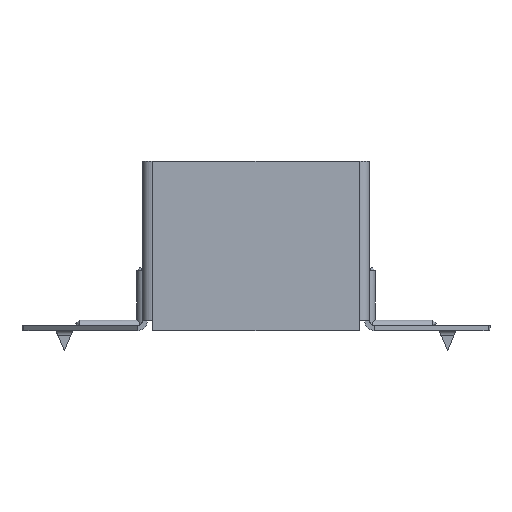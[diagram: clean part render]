
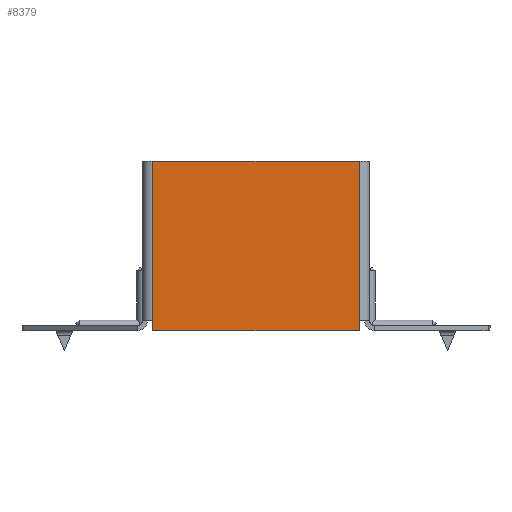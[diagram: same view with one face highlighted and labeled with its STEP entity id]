
A CAD part, front view. The second image highlights one B-rep face of the part: STEP entity #8379.
In plain terms, the highlighted planar face has unit normal (0, -1, 0).
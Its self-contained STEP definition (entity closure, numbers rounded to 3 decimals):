
#7 = EDGE_LOOP ( 'NONE', ( #2352, #1245, #5718, #7207, #8308, #9042 ) ) ;
#13 = LINE ( 'NONE', #5226, #7270 ) ;
#413 = DIRECTION ( 'NONE',  ( 0., 0., 1. ) ) ;
#1245 = ORIENTED_EDGE ( 'NONE', *, *, #2933, .T. ) ;
#1515 = LINE ( 'NONE', #8668, #8201 ) ;
#1638 = CARTESIAN_POINT ( 'NONE',  ( 30.5, 0., -70. ) ) ;
#1641 = VERTEX_POINT ( 'NONE', #8903 ) ;
#1982 = VECTOR ( 'NONE', #2291, 1000. ) ;
#2080 = EDGE_CURVE ( 'NONE', #3782, #4409, #3948, .T. ) ;
#2291 = DIRECTION ( 'NONE',  ( -1., 0., 0. ) ) ;
#2311 = CARTESIAN_POINT ( 'NONE',  ( 30.5, 0., -70. ) ) ;
#2352 = ORIENTED_EDGE ( 'NONE', *, *, #2080, .T. ) ;
#2356 = CARTESIAN_POINT ( 'NONE',  ( -30.5, 0., 0. ) ) ;
#2473 = EDGE_CURVE ( 'NONE', #5222, #5444, #13, .T. ) ;
#2933 = EDGE_CURVE ( 'NONE', #4409, #4751, #6929, .T. ) ;
#3007 = LINE ( 'NONE', #2311, #3954 ) ;
#3349 = VECTOR ( 'NONE', #6135, 1000. ) ;
#3545 = CARTESIAN_POINT ( 'NONE',  ( -30.5, 0., -70. ) ) ;
#3659 = CARTESIAN_POINT ( 'NONE',  ( -30.5, 0., -20. ) ) ;
#3709 = DIRECTION ( 'NONE',  ( 0., 1., 0. ) ) ;
#3782 = VERTEX_POINT ( 'NONE', #9413 ) ;
#3838 = DIRECTION ( 'NONE',  ( 0., 0., 1. ) ) ;
#3948 = LINE ( 'NONE', #4571, #1982 ) ;
#3954 = VECTOR ( 'NONE', #5192, 1000. ) ;
#4409 = VERTEX_POINT ( 'NONE', #3659 ) ;
#4571 = CARTESIAN_POINT ( 'NONE',  ( 0., 0., -20. ) ) ;
#4584 = DIRECTION ( 'NONE',  ( -1., 0., 0. ) ) ;
#4603 = CARTESIAN_POINT ( 'NONE',  ( -30.5, 0., 0. ) ) ;
#4751 = VERTEX_POINT ( 'NONE', #6880 ) ;
#5192 = DIRECTION ( 'NONE',  ( 0., 0., 1. ) ) ;
#5222 = VERTEX_POINT ( 'NONE', #1638 ) ;
#5226 = CARTESIAN_POINT ( 'NONE',  ( -32., 0., -70. ) ) ;
#5269 = CARTESIAN_POINT ( 'NONE',  ( 0., 0., 0. ) ) ;
#5443 = LINE ( 'NONE', #4603, #8778 ) ;
#5444 = VERTEX_POINT ( 'NONE', #3545 ) ;
#5638 = EDGE_CURVE ( 'NONE', #1641, #3782, #1515, .T. ) ;
#5718 = ORIENTED_EDGE ( 'NONE', *, *, #7206, .T. ) ;
#6135 = DIRECTION ( 'NONE',  ( 0., 0., -1. ) ) ;
#6880 = CARTESIAN_POINT ( 'NONE',  ( -30.5, 0., -67. ) ) ;
#6929 = LINE ( 'NONE', #2356, #3349 ) ;
#6989 = AXIS2_PLACEMENT_3D ( 'NONE', #5269, #3709, #3838 ) ;
#7064 = FACE_OUTER_BOUND ( 'NONE', #7, .T. ) ;
#7206 = EDGE_CURVE ( 'NONE', #4751, #5444, #5443, .T. ) ;
#7207 = ORIENTED_EDGE ( 'NONE', *, *, #2473, .F. ) ;
#7270 = VECTOR ( 'NONE', #4584, 1000. ) ;
#7591 = DIRECTION ( 'NONE',  ( 0., 0., -1. ) ) ;
#8201 = VECTOR ( 'NONE', #413, 1000. ) ;
#8308 = ORIENTED_EDGE ( 'NONE', *, *, #8434, .T. ) ;
#8379 = ADVANCED_FACE ( 'NONE', ( #7064 ), #8752, .F. ) ;
#8434 = EDGE_CURVE ( 'NONE', #5222, #1641, #3007, .T. ) ;
#8668 = CARTESIAN_POINT ( 'NONE',  ( 30.5, 0., -70. ) ) ;
#8752 = PLANE ( 'NONE',  #6989 ) ;
#8778 = VECTOR ( 'NONE', #7591, 1000. ) ;
#8903 = CARTESIAN_POINT ( 'NONE',  ( 30.5, 0., -67. ) ) ;
#9042 = ORIENTED_EDGE ( 'NONE', *, *, #5638, .T. ) ;
#9413 = CARTESIAN_POINT ( 'NONE',  ( 30.5, 0., -20. ) ) ;
